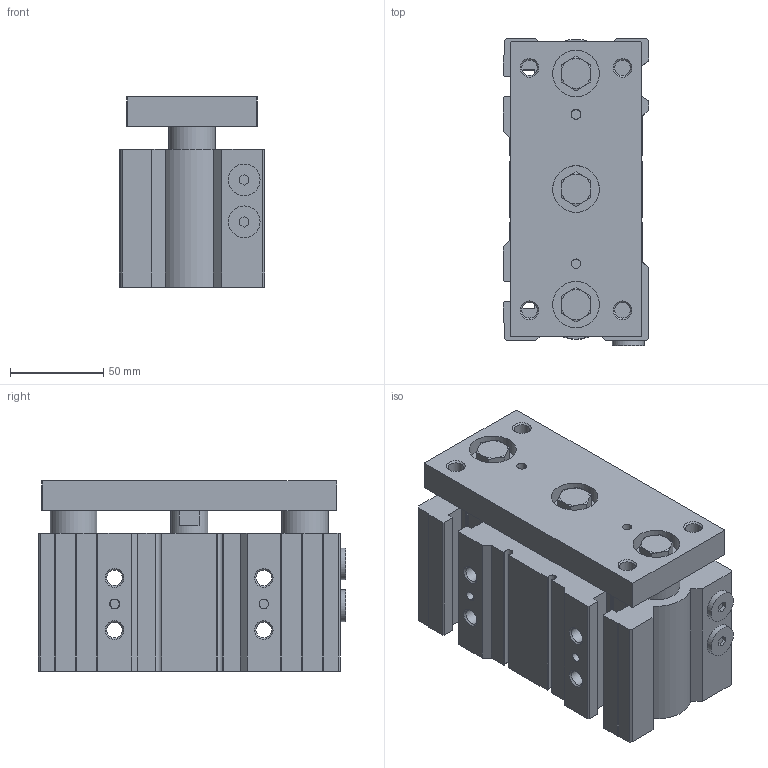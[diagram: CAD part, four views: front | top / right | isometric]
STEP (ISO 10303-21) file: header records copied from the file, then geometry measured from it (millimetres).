
FILE_DESCRIPTION( ( 'STEP AP214' ), '1' );
FILE_NAME( 'C:/Users/emc02044/Desktop/SGL SGM/SGM63X25-S.stp', '2026-07-24T01:48:59', ( 'License CC BY-ND 4.0' ), ( 'CADENAS' ), ' ', 'PARTsolutions', ' ' );
FILE_SCHEMA( ( 'AUTOMOTIVE_DESIGN { 1 0 10303 214 1 1 1 1 }' ) );
Length unit declared in the file: millimetre
Products named in the file (4): SGM63X25X0-S(); _SGM63x25-M(SG:Shaft cylinderM63X25X0-S:with magnet()dummy-0) 0; _SGM63x25-M(-0)-body; _SGM63x25-M(-0)-rod
Assembly tree (3 placements, depth 2):
  SGM63X25X0-S()
    _SGM63x25-M(SG:Shaft cylinderM63X25X0-S:with magnet()dummy-0) 0
    _SGM63x25-M(-0)-body
    _SGM63x25-M(-0)-rod
Bounding box: 78 x 165 x 102 mm (x, y, z)
Volume: 889963.2 mm3; surface area: 171281.8 mm2
Topology: 2 solids, 4 shells, 349 faces, 851 edges, 548 vertices
Faces by surface type: plane 177, cylinder 114, cone 58
Full cylindrical faces by diameter (mm): 5 x6, 8.376 x12, 8.7 x4, 11.445 x4, 14 x4, 17 x2, 20 x2, 25 x7, 30 x2, 32.5 x2, 63 x3
Entity records: 12834 total; most frequent: CARTESIAN_POINT 1992, DIRECTION 1678, ORIENTED_EDGE 1540, EDGE_CURVE 770, AXIS2_PLACEMENT_3D 645, VERTEX_POINT 536, EDGE_LOOP 476, FACE_OUTER_BOUND 397
